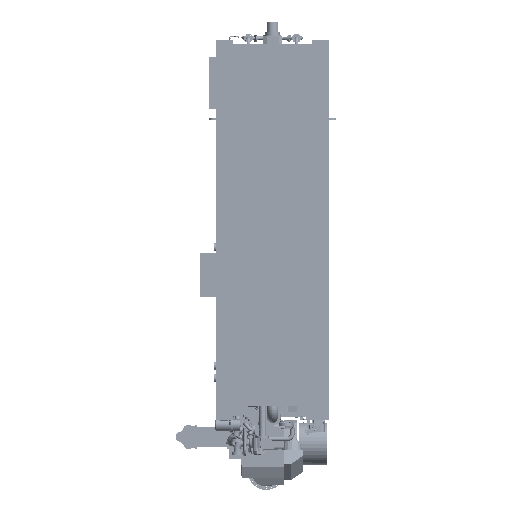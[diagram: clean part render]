
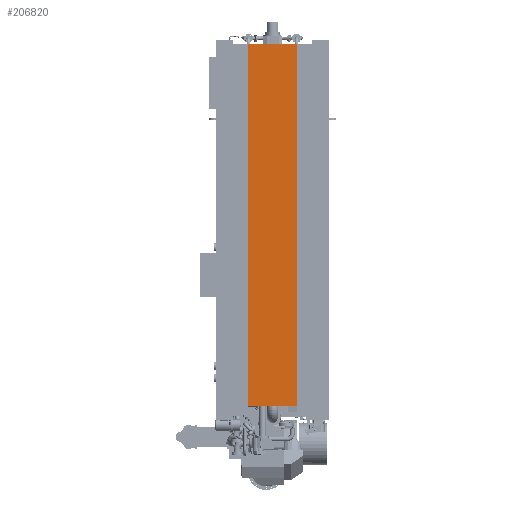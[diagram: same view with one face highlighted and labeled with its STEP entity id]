
A CAD part, front view. The second image highlights one B-rep face of the part: STEP entity #206820.
In plain terms, the highlighted planar face has unit normal (0, -1, 0).
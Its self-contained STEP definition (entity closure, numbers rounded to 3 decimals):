
#201602=DIRECTION('',(1.,0.,0.));
#201603=VECTOR('',#201602,1000.);
#201604=CARTESIAN_POINT('',(-500.,-1775.,4177.));
#201605=LINE('',#201604,#201603);
#202012=DIRECTION('',(1.,0.,0.));
#202013=VECTOR('',#202012,1000.);
#202014=CARTESIAN_POINT('',(-500.,-1775.,-3188.));
#202015=LINE('',#202014,#202013);
#202016=DIRECTION('',(0.,0.,1.));
#202017=VECTOR('',#202016,7365.);
#202018=CARTESIAN_POINT('',(-500.,-1775.,-3188.));
#202019=LINE('',#202018,#202017);
#202020=DIRECTION('',(0.,0.,-1.));
#202021=VECTOR('',#202020,7365.);
#202022=CARTESIAN_POINT('',(500.,-1775.,4177.));
#202023=LINE('',#202022,#202021);
#205134=CARTESIAN_POINT('',(-500.,-1775.,4177.));
#205136=VERTEX_POINT('',#205134);
#205137=CARTESIAN_POINT('',(500.,-1775.,4177.));
#205138=VERTEX_POINT('',#205137);
#206075=CARTESIAN_POINT('',(-500.,-1775.,-3188.));
#206076=VERTEX_POINT('',#206075);
#206077=CARTESIAN_POINT('',(500.,-1775.,-3188.));
#206078=VERTEX_POINT('',#206077);
#206806=CARTESIAN_POINT('',(-500.,-1775.,412.));
#206807=DIRECTION('',(0.,-1.,0.));
#206808=DIRECTION('',(1.,0.,0.));
#206809=AXIS2_PLACEMENT_3D('',#206806,#206807,#206808);
#206810=PLANE('',#206809);
#206812=ORIENTED_EDGE('',*,*,#206811,.F.);
#206814=ORIENTED_EDGE('',*,*,#206813,.T.);
#206815=ORIENTED_EDGE('',*,*,#206395,.T.);
#206817=ORIENTED_EDGE('',*,*,#206816,.T.);
#206818=EDGE_LOOP('',(#206812,#206814,#206815,#206817));
#206819=FACE_OUTER_BOUND('',#206818,.F.);
#206820=ADVANCED_FACE('',(#206819),#206810,.T.);
#206395=EDGE_CURVE('',#205136,#205138,#201605,.T.);
#206811=EDGE_CURVE('',#206076,#206078,#202015,.T.);
#206813=EDGE_CURVE('',#206076,#205136,#202019,.T.);
#206816=EDGE_CURVE('',#205138,#206078,#202023,.T.);
